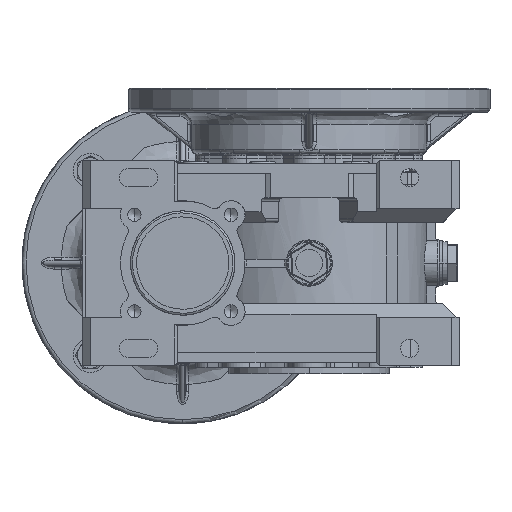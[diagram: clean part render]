
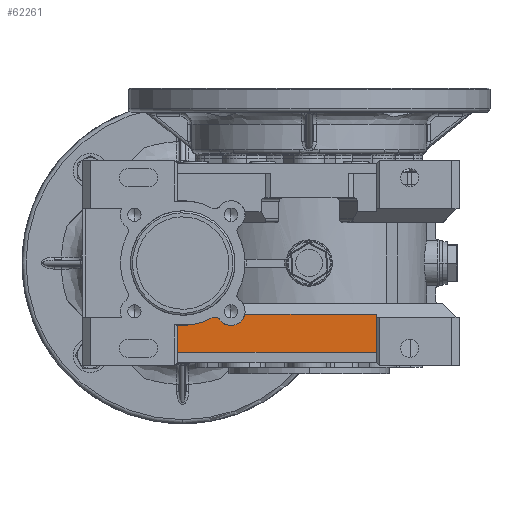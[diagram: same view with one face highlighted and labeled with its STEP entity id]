
A CAD part, left-side view. The second image highlights one B-rep face of the part: STEP entity #62261.
In plain terms, the highlighted planar face has unit normal (-1, 0, 0).
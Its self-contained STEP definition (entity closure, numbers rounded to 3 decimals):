
#960=CARTESIAN_POINT('',(-72.,44.582,22.79));
#961=VERTEX_POINT('',#960);
#968=CARTESIAN_POINT('',(-72.0,32.112,25.5));
#969=VERTEX_POINT('',#968);
#970=CARTESIAN_POINT('',(-72.0,38.958,26.958));
#971=DIRECTION('',(1.0,0.0,0.0));
#972=DIRECTION('',(0.0,-0.803,0.595));
#973=AXIS2_PLACEMENT_3D('',#970,#971,#972);
#974=CIRCLE('',#973,7.0);
#975=EDGE_CURVE('',#969,#961,#974,.T.);
#62131=CARTESIAN_POINT('',(-72.0,-33.5,25.5));
#62132=VERTEX_POINT('',#62131);
#62141=CARTESIAN_POINT('',(-72.,-33.5,6.5));
#62142=VERTEX_POINT('',#62141);
#62143=CARTESIAN_POINT('',(-72.,-33.5,6.5));
#62144=DIRECTION('',(0.0,0.0,1.0));
#62145=VECTOR('',#62144,19.);
#62146=LINE('',#62143,#62145);
#62147=EDGE_CURVE('',#62142,#62132,#62146,.T.);
#62171=CARTESIAN_POINT('',(-72.,65.5,20.101));
#62172=VERTEX_POINT('',#62171);
#62173=CARTESIAN_POINT('',(-72.,65.5,6.5));
#62174=VERTEX_POINT('',#62173);
#62175=CARTESIAN_POINT('',(-72.,65.5,20.101));
#62176=DIRECTION('',(0.0,0.0,-1.0));
#62177=VECTOR('',#62176,13.601);
#62178=LINE('',#62175,#62177);
#62179=EDGE_CURVE('',#62172,#62174,#62178,.T.);
#62211=CARTESIAN_POINT('',(-72.,65.5,6.5));
#62212=DIRECTION('',(0.0,-1.0,0.0));
#62213=VECTOR('',#62212,99.0);
#62214=LINE('',#62211,#62213);
#62215=EDGE_CURVE('',#62174,#62142,#62214,.T.);
#62228=CARTESIAN_POINT('',(-72.,14.399,18.048));
#62229=DIRECTION('',(1.0,0.0,0.0));
#62230=DIRECTION('',(0.0,0.0,-1.0));
#62231=AXIS2_PLACEMENT_3D('',#62228,#62229,#62230);
#62232=PLANE('',#62231);
#62233=CARTESIAN_POINT('',(-72.0,32.112,25.5));
#62234=DIRECTION('',(0.0,-1.0,0.0));
#62235=VECTOR('',#62234,65.612);
#62236=LINE('',#62233,#62235);
#62237=EDGE_CURVE('',#969,#62132,#62236,.T.);
#62238=ORIENTED_EDGE('',*,*,#62237,.F.);
#62239=ORIENTED_EDGE('',*,*,#975,.T.);
#62240=CARTESIAN_POINT('',(-72.,48.405,23.651));
#62241=VERTEX_POINT('',#62240);
#62242=CARTESIAN_POINT('',(-72.0,46.992,21.004));
#62243=DIRECTION('',(-1.,0.0,0.0));
#62244=DIRECTION('',(0.0,-0.803,0.595));
#62245=AXIS2_PLACEMENT_3D('',#62242,#62243,#62244);
#62246=CIRCLE('',#62245,3.);
#62247=EDGE_CURVE('',#961,#62241,#62246,.T.);
#62248=ORIENTED_EDGE('',*,*,#62247,.T.);
#62249=CARTESIAN_POINT('',(-72.0,63.,51.0));
#62250=DIRECTION('',(1.,0.0,0.0));
#62251=DIRECTION('',(0.0,-0.081,0.997));
#62252=AXIS2_PLACEMENT_3D('',#62249,#62250,#62251);
#62253=CIRCLE('',#62252,31.0);
#62254=EDGE_CURVE('',#62241,#62172,#62253,.T.);
#62255=ORIENTED_EDGE('',*,*,#62254,.T.);
#62256=ORIENTED_EDGE('',*,*,#62179,.T.);
#62257=ORIENTED_EDGE('',*,*,#62215,.T.);
#62258=ORIENTED_EDGE('',*,*,#62147,.T.);
#62259=EDGE_LOOP('',(#62238,#62239,#62248,#62255,#62256,#62257,#62258));
#62260=FACE_OUTER_BOUND('',#62259,.T.);
#62261=ADVANCED_FACE('',(#62260),#62232,.F.);
